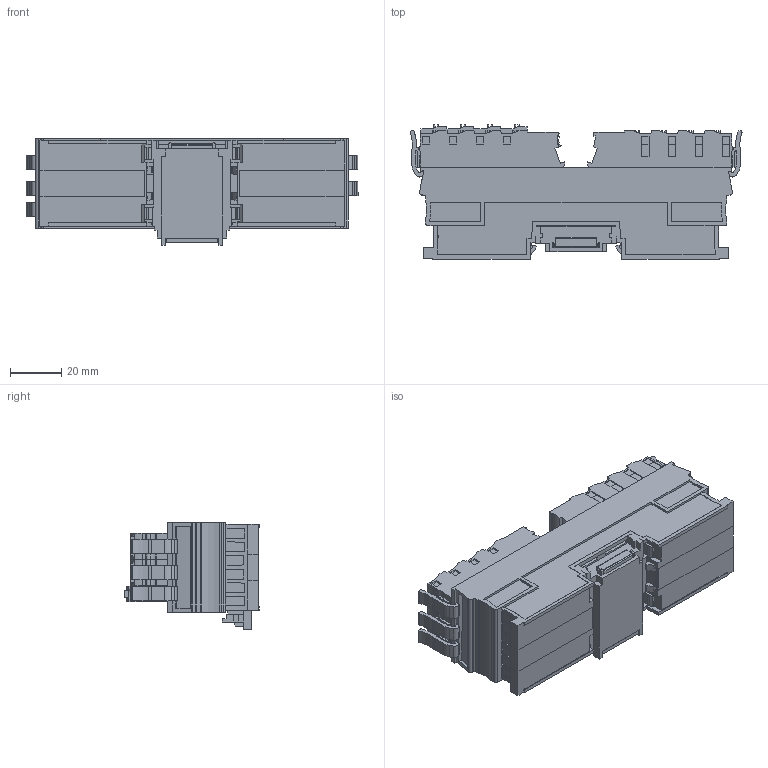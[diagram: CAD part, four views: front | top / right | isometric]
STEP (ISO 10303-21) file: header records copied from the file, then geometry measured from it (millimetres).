
FILE_DESCRIPTION((''),'2;1');
FILE_NAME('CU_REM-11154','2017-05-11T',('dkendric'),(''),'CREO PARAMETRIC BY PTC INC, 2015380','CREO PARAMETRIC BY PTC INC, 2015380','');
FILE_SCHEMA(('CONFIG_CONTROL_DESIGN'));
Length unit declared in the file: inch
Products named in the file (1): CU_REM-11154
Bounding box: 129.89 x 52.55 x 41.8 mm (x, y, z)
Volume: 169929.1 mm3; surface area: 46123.7 mm2
Topology: 1 solids, 1 shells, 2550 faces, 7175 edges, 4767 vertices
Faces by surface type: plane 2051, cylinder 491, cone 8
Entity records: 81797 total; most frequent: CARTESIAN_POINT 14937, ORIENTED_EDGE 14350, DIRECTION 13198, EDGE_CURVE 7175, VECTOR 6000, LINE 6000, VERTEX_POINT 4767, AXIS2_PLACEMENT_3D 3599
